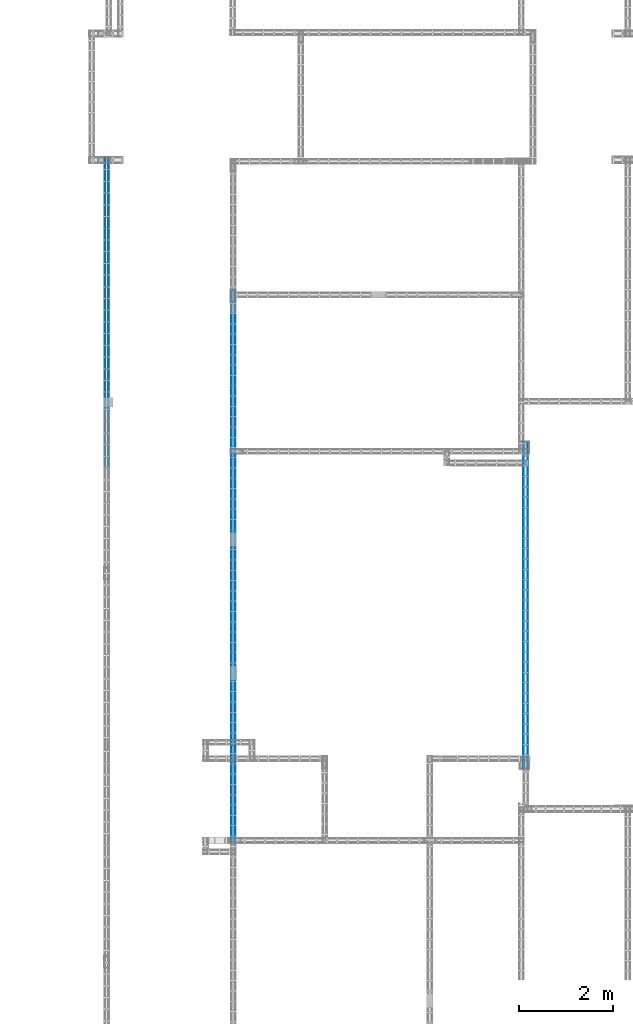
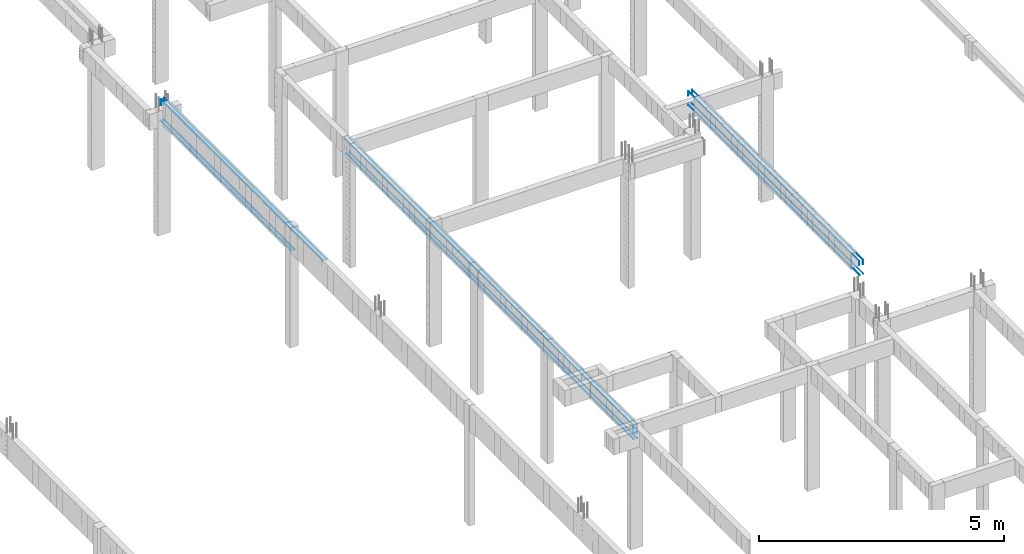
# One storey, part 87 of 236: 12 reinforcing bars.
"""IFC4 building model written with IfcOpenShell, lengths in centimetres."""

import ifcopenshell
import ifcopenshell.guid

model = None  # the IFC model being written
_history = None  # IfcOwnerHistory: only IFC2X3 demands one
_inside = {}  # id of a spatial element -> (the spatial element, [elements in it])
_under = {}  # id of a project, library or spatial element -> (it, [spatial elements below it])
_declared = {}  # id of a project -> (the project, [libraries it declares])
_typed = {}  # id of a type object -> (the type object, [elements of that type])
_made_of = {}  # id of a material, layer set ... -> (it, [elements and type objects made of it])


def new_model(schema):
    """Start an empty IFC model of exactly this schema.

    Asked for "IFC4X3", IfcOpenShell would pick the latest addendum, in which some entities
    have other attributes; the version numbers below select the first issue.
    IFC2X3 requires an IfcOwnerHistory on every rooted entity: one is made here for all.
    """
    global model, _history
    if schema == "IFC4X3":
        model = ifcopenshell.file(schema_version=(4, 3, 0, 0))
    else:
        model = ifcopenshell.file(schema=schema)
    _inside.clear()
    _under.clear()
    _declared.clear()
    _typed.clear()
    _made_of.clear()
    _history = None
    if model.schema == "IFC2X3":
        org = make("IfcOrganization", Name="unknown")
        user = make(
            "IfcPersonAndOrganization",
            ThePerson=make("IfcPerson", FamilyName="unknown"),
            TheOrganization=org,
        )
        app = make(
            "IfcApplication",
            ApplicationDeveloper=org,
            Version="unknown",
            ApplicationFullName="unknown",
            ApplicationIdentifier="unknown",
        )
        _history = make(
            "IfcOwnerHistory",
            OwningUser=user,
            OwningApplication=app,
            ChangeAction="ADDED",
            CreationDate=0,
        )
    return model


def make(cls, **values):
    """One entity of the class cls with the attributes given. An attribute that is None is left unset."""
    return model.create_entity(
        cls, **{name: value for name, value in values.items() if value is not None}
    )


def entity(cls, *values):
    """Any entity or typed value of the class cls, its attributes in the order of the schema. None: left unset."""
    e = model.create_entity(cls)
    for i, value in enumerate(values):
        if value is not None:
            e[i] = value
    return e


def rooted(cls, **values):
    """An entity with a GlobalId (a new one), such as an element, a storey or a relation."""
    return make(cls, GlobalId=ifcopenshell.guid.new(), OwnerHistory=_history, **values)


def si_unit(unit_type, name, prefix=None):
    """IfcSIUnit, for example si_unit("LENGTHUNIT", "METRE", prefix="MILLI")."""
    return make("IfcSIUnit", UnitType=unit_type, Prefix=prefix, Name=name)


def derived_unit(unit_type, elements):
    """IfcDerivedUnit: a product of units, each with its exponent."""
    return make(
        "IfcDerivedUnit",
        Elements=[
            make("IfcDerivedUnitElement", Unit=unit, Exponent=power)
            for unit, power in elements
        ],
        UnitType=unit_type,
    )


def assignment(units):
    """IfcUnitAssignment: the units of a project."""
    return None if units is None else make("IfcUnitAssignment", Units=units)


def point(xyz):
    """IfcCartesianPoint."""
    return None if xyz is None else make("IfcCartesianPoint", Coordinates=xyz)


def direction(xyz):
    """IfcDirection."""
    return None if xyz is None else make("IfcDirection", DirectionRatios=xyz)


def frame(location, z_axis=None, x_axis=None):
    """IfcAxis2Placement3D, a coordinate frame: its origin and axes. An axis left out is left unset."""
    return make(
        "IfcAxis2Placement3D",
        Location=point(location),
        Axis=direction(z_axis),
        RefDirection=direction(x_axis),
    )


def origin_with_axes():
    """The frame at (0, 0, 0) with the z axis (0, 0, 1) and the x axis (1, 0, 0) written out."""
    return frame((0.0, 0.0, 0.0), z_axis=(0.0, 0.0, 1.0), x_axis=(1.0, 0.0, 0.0))


def place(relative_to, where):
    """IfcLocalPlacement: puts the frame where relative to a parent placement (None: the world)."""
    return make(
        "IfcLocalPlacement", PlacementRelTo=relative_to, RelativePlacement=where
    )


def context(
    kind, dimensions, precision=None, world=None, true_north=None, identifier=None
):
    """IfcGeometricRepresentationContext, for example the 3D "Model" context."""
    return make(
        "IfcGeometricRepresentationContext",
        ContextIdentifier=identifier,
        ContextType=kind,
        CoordinateSpaceDimension=dimensions,
        Precision=precision,
        WorldCoordinateSystem=world,
        TrueNorth=true_north,
    )


def project(units=None, contexts=None):
    """IfcProject with its units and contexts."""
    return rooted(
        "IfcProject",
        Name="project",
        RepresentationContexts=contexts,
        UnitsInContext=assignment(units),
    )


def spatial(cls, under=None, at=None, **own):
    """A site, building, storey or space (cls), placed at a placement, below another one or the project."""
    s = rooted(cls, ObjectPlacement=at, **own)
    if under is not None:
        _under.setdefault(under.id(), (under, []))[1].append(s)
    return s


def shape(context_of_items, identifier, shape_type, items):
    """IfcShapeRepresentation: the items that make up one representation, for example the "Body"."""
    return make(
        "IfcShapeRepresentation",
        ContextOfItems=context_of_items,
        RepresentationIdentifier=identifier,
        RepresentationType=shape_type,
        Items=items,
    )


def made_of(thing, what):
    """Note that an element or type object is made of a material, layer set ...; save() writes the relation."""
    if what is not None:
        _made_of.setdefault(what.id(), (what, []))[1].append(thing)
    return thing


def element(
    cls,
    number,
    at=None,
    inside=None,
    cuts=None,
    type_object=None,
    material=None,
    context=None,
    identifier="Body",
    shape_type=None,
    held_by="IfcProductDefinitionShape",
    body=None,
    shapes=None,
    **own,
):
    """One element of the class cls, such as IfcWall. Its Tag is "e" and its number.

    at: its placement. inside: the storey or other place that contains it. cuts: it is an
    opening in that element (IfcRelVoidsElement). A single representation is given by context,
    identifier, shape_type and body (its items); several are given by shapes. held_by: the class
    of the entity that holds the representations. save() writes the other relations.
    """
    e = rooted(cls, Tag="e%d" % number, ObjectPlacement=at, **own)
    if body is not None:
        shapes = [shape(context, identifier, shape_type, body)]
    if shapes is not None:
        e.Representation = make(held_by, Representations=shapes)
    if inside is not None:
        _inside.setdefault(inside.id(), (inside, []))[1].append(e)
    if cuts is not None:
        rooted(
            "IfcRelVoidsElement", RelatingBuildingElement=cuts, RelatedOpeningElement=e
        )
    if type_object is not None:
        _typed.setdefault(type_object.id(), (type_object, []))[1].append(e)
    return made_of(e, material)


def aggregate(whole, parts):
    """IfcRelAggregates: a whole, such as a stair, and the parts it consists of."""
    return rooted("IfcRelAggregates", RelatingObject=whole, RelatedObjects=parts)


def save(model, path):
    """Write the relations noted so far, then the file.

    IfcRelAggregates (storeys below a building ...), IfcRelContainedInSpatialStructure (elements
    in a storey), IfcRelDefinesByType, IfcRelAssociatesMaterial and IfcRelDeclares: one each for
    every whole, place, type object, material and project.
    """
    for whole, parts in _under.values():
        aggregate(whole, parts)
    for where, things in _inside.values():
        rooted(
            "IfcRelContainedInSpatialStructure",
            RelatedElements=things,
            RelatingStructure=where,
        )
    for kind, things in _typed.values():
        rooted("IfcRelDefinesByType", RelatedObjects=things, RelatingType=kind)
    for what, things in _made_of.values():
        rooted("IfcRelAssociatesMaterial", RelatedObjects=things, RelatingMaterial=what)
    for by, libraries in _declared.values():
        rooted("IfcRelDeclares", RelatingContext=by, RelatedDefinitions=libraries)
    model.write(path)


model = new_model("IFC4")

# Units and contexts
model_context = context("Model", 3, precision=1e-05, world=origin_with_axes(), identifier="Body")
ifc_project = project(units=[si_unit("LENGTHUNIT", "METRE", prefix="CENTI"), si_unit("VOLUMEUNIT", "CUBIC_METRE"), si_unit("AREAUNIT", "SQUARE_METRE"), si_unit("POWERUNIT", "WATT"), si_unit("LUMINOUSFLUXUNIT", "LUMEN"), si_unit("ELECTRICCURRENTUNIT", "AMPERE"), si_unit("PRESSUREUNIT", "PASCAL", prefix="KILO"), si_unit("MASSUNIT", "GRAM", prefix="KILO"), si_unit("PLANEANGLEUNIT", "RADIAN"), derived_unit("VOLUMETRICFLOWRATEUNIT", [(si_unit("LENGTHUNIT", "METRE"), 3), (si_unit("TIMEUNIT", "SECOND"), -1)])], contexts=[model_context])

# Site, building, storey
site_placement = place(None, frame((-4000.0, 0.0, 0.0), z_axis=(0.0, 0.0, 1.0), x_axis=(1.0, 0.0, 0.0)))
site = spatial("IfcSite", under=ifc_project, at=site_placement, Name="PADRÃO")
building_placement = place(site_placement, frame((0.0, 0.0, -14.0)))
building = spatial("IfcBuilding", under=site, at=building_placement, Name="CRECHE PRÉ-ESCOLA TIPO 2")
placement_1 = place(building_placement, origin_with_axes())
placement_2 = place(placement_1, frame((0.0, 0.0, 30.0), z_axis=(0.0, 0.0, 1.0), x_axis=(1.0, 0.0, 0.0)))
storey_placement = place(placement_2, frame((0.0, 0.0, 310.0), z_axis=(0.0, 0.0, 1.0), x_axis=(1.0, 0.0, 0.0)))
storey = spatial("IfcBuildingStorey", under=building, at=storey_placement, Name="TERREO", CompositionType="ELEMENT", Elevation=326.0)

# Reinforcing bars
for number, where, z_axis, x_axis, name in (
    (1, (2249.49, 2940.015, -36.5), (0.0, 0.0, 1.0), (1.0, 0.0, 0.0), "V290 - Longitudinal inferior"),
    (2, (2257.49, 2940.015, -36.5), (0.0, 0.0, 1.0), (1.0, 0.0, 0.0), "V290 - Longitudinal inferior"),
):
    element("IfcReinforcingBar", number, at=place(storey_placement, frame(where, z_axis=z_axis, x_axis=x_axis)), inside=storey, Name=name, BarLength=0.0, CrossSectionArea=7.853981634e-05, NominalDiameter=1.0, PredefinedType="MAIN", context=model_context, shape_type="AdvancedSweptSolid", body=[
        entity("IfcSweptDiskSolid", entity("IfcCompositeCurve", [entity("IfcCompositeCurveSegment", "CONTINUOUS", True, entity("IfcPolyline", [entity("IfcCartesianPoint", [0.0, -266.505, -0.5]), entity("IfcCartesianPoint", [0.0, 266.505, -0.5])]))], False), 0.5),
    ])
for number, where, z_axis, x_axis, name in (
    (3, (2249.615, 2875.01792989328, 17.505859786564), (0.0, 0.0, 1.0), (1.0, 0.0, 0.0), "V290 - Longitudinal superior"),
    (4, (2257.365, 2875.01792989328, 17.505859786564), (0.0, 0.0, 1.0), (1.0, 0.0, 0.0), "V290 - Longitudinal superior"),
):
    element("IfcReinforcingBar", number, at=place(storey_placement, frame(where, z_axis=z_axis, x_axis=x_axis)), inside=storey, Name=name, BarLength=0.0, CrossSectionArea=0.000122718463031, NominalDiameter=1.25, PredefinedType="MAIN", context=model_context, shape_type="AdvancedSweptSolid", body=[
        entity("IfcSweptDiskSolid", entity("IfcCompositeCurve", [entity("IfcCompositeCurveSegment", "CONTINUOUS", True, entity("IfcPolyline", [entity("IfcCartesianPoint", [0.0, -331.507929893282, -0.630859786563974]), entity("IfcCartesianPoint", [0.0, 330.877070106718, -0.630859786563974])])), entity("IfcCompositeCurveSegment", "CONTINUOUS", True, entity("IfcPolyline", [entity("IfcCartesianPoint", [0.0, 330.877070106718, -0.630859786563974]), entity("IfcCartesianPoint", [0.0, 330.877070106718, -15.005859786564])]))], False), 0.625),
    ])
for number, where, z_axis, x_axis, name in (
    (5, (2519.4, 2329.43, -36.7), (0.0, 0.0, 1.0), (1.0, 0.0, 0.0), "V297 - Longitudinal inferior"),
    (6, (2527.6, 2329.43, -36.7), (0.0, 0.0, 1.0), (1.0, 0.0, 0.0), "V297 - Longitudinal inferior"),
):
    element("IfcReinforcingBar", number, at=place(storey_placement, frame(where, z_axis=z_axis, x_axis=x_axis)), inside=storey, Name=name, BarLength=0.0, CrossSectionArea=5.0265482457e-05, NominalDiameter=0.8, PredefinedType="MAIN", context=model_context, shape_type="AdvancedSweptSolid", body=[
        entity("IfcSweptDiskSolid", entity("IfcCompositeCurve", [entity("IfcCompositeCurveSegment", "CONTINUOUS", True, entity("IfcPolyline", [entity("IfcCartesianPoint", [0.0, -586.59, -0.4]), entity("IfcCartesianPoint", [0.0, 586.59, -0.4])]))], False), 0.4),
    ])
for number, where, z_axis, x_axis, name in (
    (7, (2527.6, 2331.68926854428, -2.49624973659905), (0.0, 0.0, 1.0), (1.0, 0.0, 0.0), "V297 - Longitudinal superior"),
    (8, (2519.4, 2331.68926854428, -2.49624973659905), (0.0, 0.0, 1.0), (1.0, 0.0, 0.0), "V297 - Longitudinal superior"),
):
    element("IfcReinforcingBar", number, at=place(storey_placement, frame(where, z_axis=z_axis, x_axis=x_axis)), inside=storey, Name=name, BarLength=0.0, CrossSectionArea=5.0265482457e-05, NominalDiameter=0.8, PredefinedType="MAIN", context=model_context, shape_type="AdvancedSweptSolid", body=[
        entity("IfcSweptDiskSolid", entity("IfcCompositeCurve", [entity("IfcCompositeCurveSegment", "CONTINUOUS", True, entity("IfcPolyline", [entity("IfcCartesianPoint", [0.0, -588.449268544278, -22.7014629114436]), entity("IfcCartesianPoint", [0.0, -588.449268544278, -0.403750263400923])])), entity("IfcCompositeCurveSegment", "CONTINUOUS", True, entity("IfcPolyline", [entity("IfcCartesianPoint", [0.0, -588.449268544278, -0.403750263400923]), entity("IfcCartesianPoint", [0.0, 588.853018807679, -0.403750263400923])]))], False), 0.4),
    ])
for number, where, z_axis, x_axis, name in (
    (9, (3152.12, 2250.02, 58.3), (0.0, 0.0, 1.0), (1.0, 0.0, 0.0), "V307 - Longitudinal inferior"),
    (10, (3142.92, 2250.02, 58.3), (0.0, 0.0, 1.0), (1.0, 0.0, 0.0), "V307 - Longitudinal inferior"),
):
    element("IfcReinforcingBar", number, at=place(storey_placement, frame(where, z_axis=z_axis, x_axis=x_axis)), inside=storey, Name=name, BarLength=0.0, CrossSectionArea=5.0265482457e-05, NominalDiameter=0.8, PredefinedType="MAIN", context=model_context, shape_type="AdvancedSweptSolid", body=[
        entity("IfcSweptDiskSolid", entity("IfcCompositeCurve", [entity("IfcCompositeCurveSegment", "CONTINUOUS", True, entity("IfcPolyline", [entity("IfcCartesianPoint", [0.0, -349.5, -0.4]), entity("IfcCartesianPoint", [0.0, 349.5, -0.4])]))], False), 0.4),
    ])
for number, where, z_axis, x_axis, name in (
    (11, (3152.12, 2250.02, 92.5037502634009), (0.0, 0.0, 1.0), (1.0, 0.0, 0.0), "V307 - Longitudinal superior"),
    (12, (3142.92, 2250.02, 92.5037502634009), (0.0, 0.0, 1.0), (1.0, 0.0, 0.0), "V307 - Longitudinal superior"),
):
    element("IfcReinforcingBar", number, at=place(storey_placement, frame(where, z_axis=z_axis, x_axis=x_axis)), inside=storey, Name=name, BarLength=0.0, CrossSectionArea=5.0265482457e-05, NominalDiameter=0.8, PredefinedType="MAIN", context=model_context, shape_type="AdvancedSweptSolid", body=[
        entity("IfcSweptDiskSolid", entity("IfcCompositeCurve", [entity("IfcCompositeCurveSegment", "CONTINUOUS", True, entity("IfcPolyline", [entity("IfcCartesianPoint", [0.0, -349.1, -10.4037502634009]), entity("IfcCartesianPoint", [0.0, -349.1, -0.403750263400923])])), entity("IfcCompositeCurveSegment", "CONTINUOUS", True, entity("IfcPolyline", [entity("IfcCartesianPoint", [0.0, -349.1, -0.403750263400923]), entity("IfcCartesianPoint", [0.0, 349.1, -0.403750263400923])])), entity("IfcCompositeCurveSegment", "CONTINUOUS", True, entity("IfcPolyline", [entity("IfcCartesianPoint", [0.0, 349.1, -0.403750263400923]), entity("IfcCartesianPoint", [0.0, 349.1, -10.4037502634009])]))], False), 0.4),
    ])

save(model, "model.ifc")
